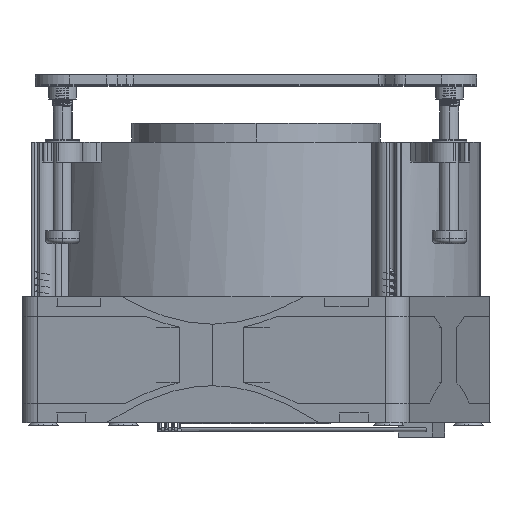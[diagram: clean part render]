
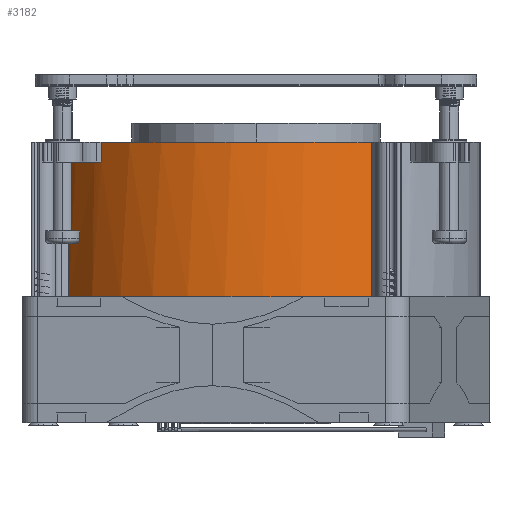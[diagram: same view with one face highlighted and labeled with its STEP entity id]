
A CAD part, front view. The second image highlights one B-rep face of the part: STEP entity #3182.
In plain terms, the highlighted cylindrical face has radius 45.15 mm (diameter 90.3 mm), a partial arc.
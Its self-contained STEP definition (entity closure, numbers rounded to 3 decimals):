
#194=CARTESIAN_POINT('',(823.947,362.341,0.));
#195=DIRECTION('',(0.,0.,1.));
#196=DIRECTION('',(-0.836,-0.549,0.));
#197=AXIS2_PLACEMENT_3D('',#194,#195,#196);
#690=CARTESIAN_POINT('',(823.947,362.341,31.2));
#691=DIRECTION('',(0.,0.,-1.));
#692=DIRECTION('',(0.515,-0.857,0.));
#693=AXIS2_PLACEMENT_3D('',#690,#691,#692);
#766=CARTESIAN_POINT('',(823.947,362.341,31.2));
#767=DIRECTION('',(0.,0.,-1.));
#768=DIRECTION('',(-0.723,-0.691,0.));
#769=AXIS2_PLACEMENT_3D('',#766,#767,#768);
#1190=DIRECTION('',(0.,0.,1.));
#1191=VECTOR('',#1190,4.);
#1192=CARTESIAN_POINT('',(792.728,329.724,27.2));
#1193=LINE('',#1192,#1191);
#1194=DIRECTION('',(0.,0.,-1.));
#1195=VECTOR('',#1194,31.2);
#1196=CARTESIAN_POINT('',(847.192,323.635,31.2));
#1197=LINE('',#1196,#1195);
#1198=DIRECTION('',(0.,0.,1.));
#1199=VECTOR('',#1198,31.2);
#1200=CARTESIAN_POINT('',(786.198,337.572,0.));
#1201=LINE('',#1200,#1199);
#1202=DIRECTION('',(0.,0.,-1.));
#1203=VECTOR('',#1202,4.);
#1204=CARTESIAN_POINT('',(791.314,331.139,31.2));
#1205=LINE('',#1204,#1203);
#1206=CARTESIAN_POINT('',(823.947,362.341,27.2));
#1207=DIRECTION('',(0.,0.,-1.));
#1208=DIRECTION('',(-0.691,-0.722,0.));
#1209=AXIS2_PLACEMENT_3D('',#1206,#1207,#1208);
#1832=CARTESIAN_POINT('',(786.198,337.572,0.));
#1833=VERTEX_POINT('',#1832);
#1834=CARTESIAN_POINT('',(847.192,323.635,0.));
#1835=VERTEX_POINT('',#1834);
#1900=CARTESIAN_POINT('',(792.728,329.724,27.2));
#1901=CARTESIAN_POINT('',(791.314,331.139,27.2));
#1902=VERTEX_POINT('',#1900);
#1903=VERTEX_POINT('',#1901);
#1904=CARTESIAN_POINT('',(792.728,329.724,31.2));
#1905=VERTEX_POINT('',#1904);
#1906=CARTESIAN_POINT('',(847.192,323.635,31.2));
#1907=VERTEX_POINT('',#1906);
#1908=CARTESIAN_POINT('',(786.198,337.572,31.2));
#1909=VERTEX_POINT('',#1908);
#1910=CARTESIAN_POINT('',(791.314,331.139,31.2));
#1911=VERTEX_POINT('',#1910);
#3163=CARTESIAN_POINT('',(823.947,362.341,31.2));
#3164=DIRECTION('',(0.,0.,1.));
#3165=DIRECTION('',(1.,0.,0.));
#3166=AXIS2_PLACEMENT_3D('',#3163,#3164,#3165);
#3167=CYLINDRICAL_SURFACE('',#3166,45.15);
#3169=ORIENTED_EDGE('',*,*,#3168,.F.);
#3171=ORIENTED_EDGE('',*,*,#3170,.T.);
#3172=ORIENTED_EDGE('',*,*,#2630,.F.);
#3173=ORIENTED_EDGE('',*,*,#3155,.T.);
#3174=ORIENTED_EDGE('',*,*,#2364,.F.);
#3176=ORIENTED_EDGE('',*,*,#3175,.T.);
#3177=ORIENTED_EDGE('',*,*,#2662,.F.);
#3179=ORIENTED_EDGE('',*,*,#3178,.T.);
#3180=EDGE_LOOP('',(#3169,#3171,#3172,#3173,#3174,#3176,#3177,#3179));
#3181=FACE_OUTER_BOUND('',#3180,.F.);
#3182=ADVANCED_FACE('',(#3181),#3167,.T.);
#198=CIRCLE('',#197,45.15);
#694=CIRCLE('',#693,45.15);
#770=CIRCLE('',#769,45.15);
#1210=CIRCLE('',#1209,45.15);
#2364=EDGE_CURVE('',#1833,#1835,#198,.T.);
#2630=EDGE_CURVE('',#1907,#1905,#694,.T.);
#2662=EDGE_CURVE('',#1911,#1909,#770,.T.);
#3155=EDGE_CURVE('',#1907,#1835,#1197,.T.);
#3168=EDGE_CURVE('',#1902,#1903,#1210,.T.);
#3170=EDGE_CURVE('',#1902,#1905,#1193,.T.);
#3175=EDGE_CURVE('',#1833,#1909,#1201,.T.);
#3178=EDGE_CURVE('',#1911,#1903,#1205,.T.);
